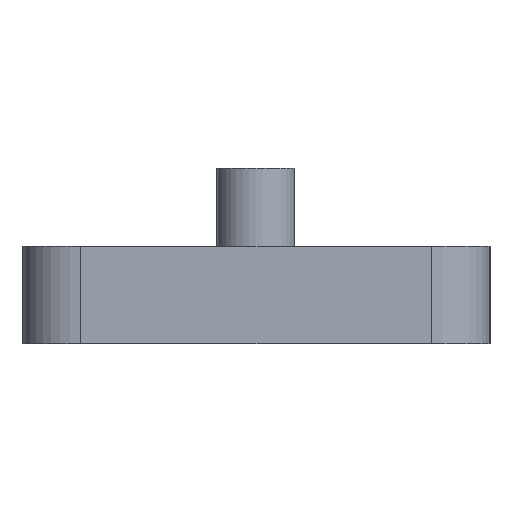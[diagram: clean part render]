
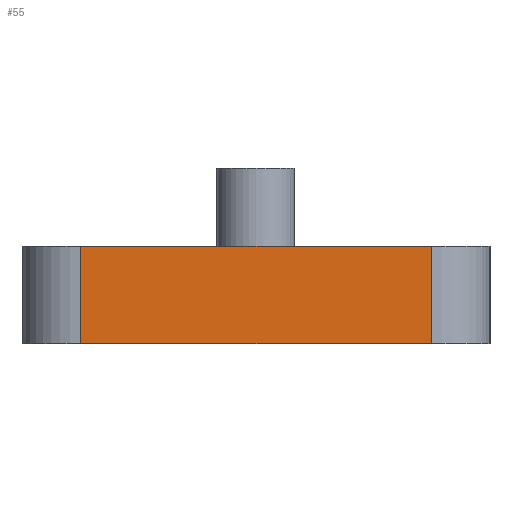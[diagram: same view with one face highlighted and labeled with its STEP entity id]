
A CAD part, left-side view. The second image highlights one B-rep face of the part: STEP entity #55.
In plain terms, the highlighted planar face has unit normal (-1, 0, 0).
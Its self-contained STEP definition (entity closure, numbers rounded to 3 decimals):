
#55 = ADVANCED_FACE('',(#56),#70,.F.);
#56 = FACE_BOUND('',#57,.F.);
#57 = EDGE_LOOP('',(#58,#93,#121,#149));
#58 = ORIENTED_EDGE('',*,*,#59,.F.);
#59 = EDGE_CURVE('',#60,#62,#64,.T.);
#60 = VERTEX_POINT('',#61);
#61 = CARTESIAN_POINT('',(0.,3.,5.));
#62 = VERTEX_POINT('',#63);
#63 = CARTESIAN_POINT('',(0.,21.,5.));
#64 = SURFACE_CURVE('',#65,(#69,#81),.PCURVE_S1.);
#65 = LINE('',#66,#67);
#66 = CARTESIAN_POINT('',(0.,0.,5.));
#67 = VECTOR('',#68,1.);
#68 = DIRECTION('',(0.,1.,0.));
#69 = PCURVE('',#70,#75);
#70 = PLANE('',#71);
#71 = AXIS2_PLACEMENT_3D('',#72,#73,#74);
#72 = CARTESIAN_POINT('',(0.,0.,0.));
#73 = DIRECTION('',(1.,0.,0.));
#74 = DIRECTION('',(0.,0.,1.));
#75 = DEFINITIONAL_REPRESENTATION('',(#76),#80);
#76 = LINE('',#77,#78);
#77 = CARTESIAN_POINT('',(5.,0.));
#78 = VECTOR('',#79,1.);
#79 = DIRECTION('',(0.,-1.));
#80 = ( GEOMETRIC_REPRESENTATION_CONTEXT(2) 
PARAMETRIC_REPRESENTATION_CONTEXT() REPRESENTATION_CONTEXT('2D SPACE',''
  ) );
#81 = PCURVE('',#82,#87);
#82 = PLANE('',#83);
#83 = AXIS2_PLACEMENT_3D('',#84,#85,#86);
#84 = CARTESIAN_POINT('',(0.,0.,5.));
#85 = DIRECTION('',(0.,0.,1.));
#86 = DIRECTION('',(1.,0.,0.));
#87 = DEFINITIONAL_REPRESENTATION('',(#88),#92);
#88 = LINE('',#89,#90);
#89 = CARTESIAN_POINT('',(0.,0.));
#90 = VECTOR('',#91,1.);
#91 = DIRECTION('',(0.,1.));
#92 = ( GEOMETRIC_REPRESENTATION_CONTEXT(2) 
PARAMETRIC_REPRESENTATION_CONTEXT() REPRESENTATION_CONTEXT('2D SPACE',''
  ) );
#93 = ORIENTED_EDGE('',*,*,#94,.F.);
#94 = EDGE_CURVE('',#95,#60,#97,.T.);
#95 = VERTEX_POINT('',#96);
#96 = CARTESIAN_POINT('',(0.,3.,0.));
#97 = SURFACE_CURVE('',#98,(#102,#109),.PCURVE_S1.);
#98 = LINE('',#99,#100);
#99 = CARTESIAN_POINT('',(0.,3.,0.));
#100 = VECTOR('',#101,1.);
#101 = DIRECTION('',(0.,0.,1.));
#102 = PCURVE('',#70,#103);
#103 = DEFINITIONAL_REPRESENTATION('',(#104),#108);
#104 = LINE('',#105,#106);
#105 = CARTESIAN_POINT('',(0.,-3.));
#106 = VECTOR('',#107,1.);
#107 = DIRECTION('',(1.,0.));
#108 = ( GEOMETRIC_REPRESENTATION_CONTEXT(2) 
PARAMETRIC_REPRESENTATION_CONTEXT() REPRESENTATION_CONTEXT('2D SPACE',''
  ) );
#109 = PCURVE('',#110,#115);
#110 = CYLINDRICAL_SURFACE('',#111,3.);
#111 = AXIS2_PLACEMENT_3D('',#112,#113,#114);
#112 = CARTESIAN_POINT('',(3.,3.,0.));
#113 = DIRECTION('',(0.,0.,1.));
#114 = DIRECTION('',(-1.,-0.,0.));
#115 = DEFINITIONAL_REPRESENTATION('',(#116),#120);
#116 = LINE('',#117,#118);
#117 = CARTESIAN_POINT('',(0.,0.));
#118 = VECTOR('',#119,1.);
#119 = DIRECTION('',(0.,1.));
#120 = ( GEOMETRIC_REPRESENTATION_CONTEXT(2) 
PARAMETRIC_REPRESENTATION_CONTEXT() REPRESENTATION_CONTEXT('2D SPACE',''
  ) );
#121 = ORIENTED_EDGE('',*,*,#122,.T.);
#122 = EDGE_CURVE('',#95,#123,#125,.T.);
#123 = VERTEX_POINT('',#124);
#124 = CARTESIAN_POINT('',(0.,21.,0.));
#125 = SURFACE_CURVE('',#126,(#130,#137),.PCURVE_S1.);
#126 = LINE('',#127,#128);
#127 = CARTESIAN_POINT('',(0.,0.,0.));
#128 = VECTOR('',#129,1.);
#129 = DIRECTION('',(0.,1.,0.));
#130 = PCURVE('',#70,#131);
#131 = DEFINITIONAL_REPRESENTATION('',(#132),#136);
#132 = LINE('',#133,#134);
#133 = CARTESIAN_POINT('',(0.,0.));
#134 = VECTOR('',#135,1.);
#135 = DIRECTION('',(0.,-1.));
#136 = ( GEOMETRIC_REPRESENTATION_CONTEXT(2) 
PARAMETRIC_REPRESENTATION_CONTEXT() REPRESENTATION_CONTEXT('2D SPACE',''
  ) );
#137 = PCURVE('',#138,#143);
#138 = PLANE('',#139);
#139 = AXIS2_PLACEMENT_3D('',#140,#141,#142);
#140 = CARTESIAN_POINT('',(0.,0.,0.));
#141 = DIRECTION('',(0.,0.,1.));
#142 = DIRECTION('',(1.,0.,0.));
#143 = DEFINITIONAL_REPRESENTATION('',(#144),#148);
#144 = LINE('',#145,#146);
#145 = CARTESIAN_POINT('',(0.,0.));
#146 = VECTOR('',#147,1.);
#147 = DIRECTION('',(0.,1.));
#148 = ( GEOMETRIC_REPRESENTATION_CONTEXT(2) 
PARAMETRIC_REPRESENTATION_CONTEXT() REPRESENTATION_CONTEXT('2D SPACE',''
  ) );
#149 = ORIENTED_EDGE('',*,*,#150,.T.);
#150 = EDGE_CURVE('',#123,#62,#151,.T.);
#151 = SURFACE_CURVE('',#152,(#156,#163),.PCURVE_S1.);
#152 = LINE('',#153,#154);
#153 = CARTESIAN_POINT('',(0.,21.,0.));
#154 = VECTOR('',#155,1.);
#155 = DIRECTION('',(0.,0.,1.));
#156 = PCURVE('',#70,#157);
#157 = DEFINITIONAL_REPRESENTATION('',(#158),#162);
#158 = LINE('',#159,#160);
#159 = CARTESIAN_POINT('',(0.,-21.));
#160 = VECTOR('',#161,1.);
#161 = DIRECTION('',(1.,0.));
#162 = ( GEOMETRIC_REPRESENTATION_CONTEXT(2) 
PARAMETRIC_REPRESENTATION_CONTEXT() REPRESENTATION_CONTEXT('2D SPACE',''
  ) );
#163 = PCURVE('',#164,#169);
#164 = CYLINDRICAL_SURFACE('',#165,3.);
#165 = AXIS2_PLACEMENT_3D('',#166,#167,#168);
#166 = CARTESIAN_POINT('',(3.,21.,0.));
#167 = DIRECTION('',(0.,0.,1.));
#168 = DIRECTION('',(-1.,-0.,0.));
#169 = DEFINITIONAL_REPRESENTATION('',(#170),#174);
#170 = LINE('',#171,#172);
#171 = CARTESIAN_POINT('',(-0.,0.));
#172 = VECTOR('',#173,1.);
#173 = DIRECTION('',(-0.,1.));
#174 = ( GEOMETRIC_REPRESENTATION_CONTEXT(2) 
PARAMETRIC_REPRESENTATION_CONTEXT() REPRESENTATION_CONTEXT('2D SPACE',''
  ) );
